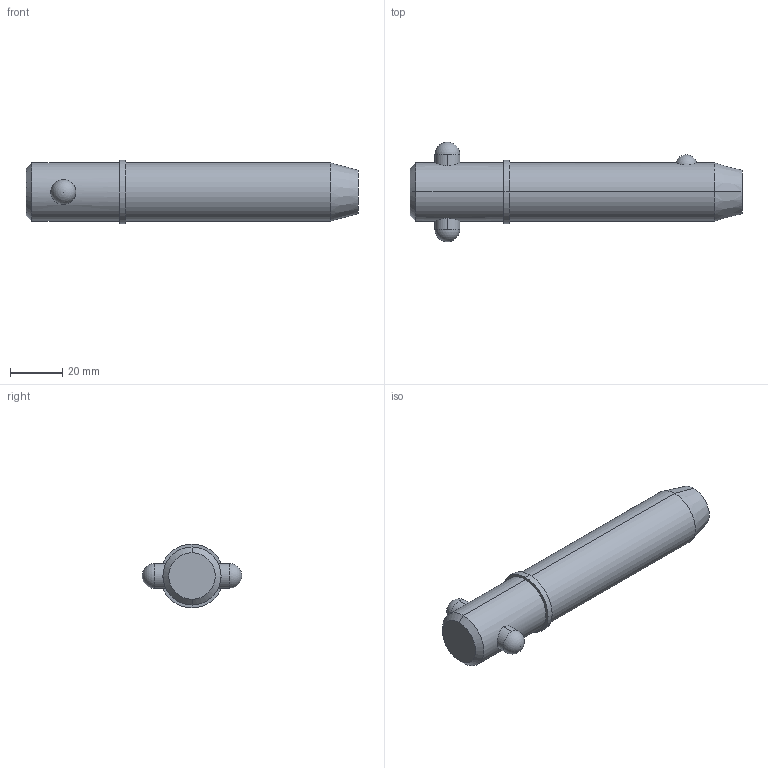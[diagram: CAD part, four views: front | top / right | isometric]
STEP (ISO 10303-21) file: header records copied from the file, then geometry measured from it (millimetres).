
FILE_DESCRIPTION (( 'STEP AP203' ), '1' );
FILE_NAME ('33018.W8825.step', '2024-11-19T17:22:09', ( '' ), ( '' ), 'SwSTEP 2.0', 'SolidWorks 2019', '' );
FILE_SCHEMA (( 'CONFIG_CONTROL_DESIGN' ));
Length unit declared in the file: millimetre
Products named in the file (3): 33018.W8825; Part1_33018.W8825; Part2_33018.W8825
Assembly tree (2 placements, depth 2):
  33018.W8825
    Part1_33018.W8825
    Part2_33018.W8825
Bounding box: 127 x 38.1 x 24.45 mm (x, y, z)
Volume: 49433.9 mm3; surface area: 11152.7 mm2
Topology: 2 solids, 2 shells, 22 faces, 47 edges, 30 vertices
Faces by surface type: cylinder 10, sphere 4, cone 4, plane 4
Entity records: 1057 total; most frequent: CARTESIAN_POINT 300, DIRECTION 110, ORIENTED_EDGE 82, AXIS2_PLACEMENT_3D 48, EDGE_CURVE 41, EDGE_LOOP 27, VERTEX_POINT 26, PERSON_AND_ORGANIZATION 26
